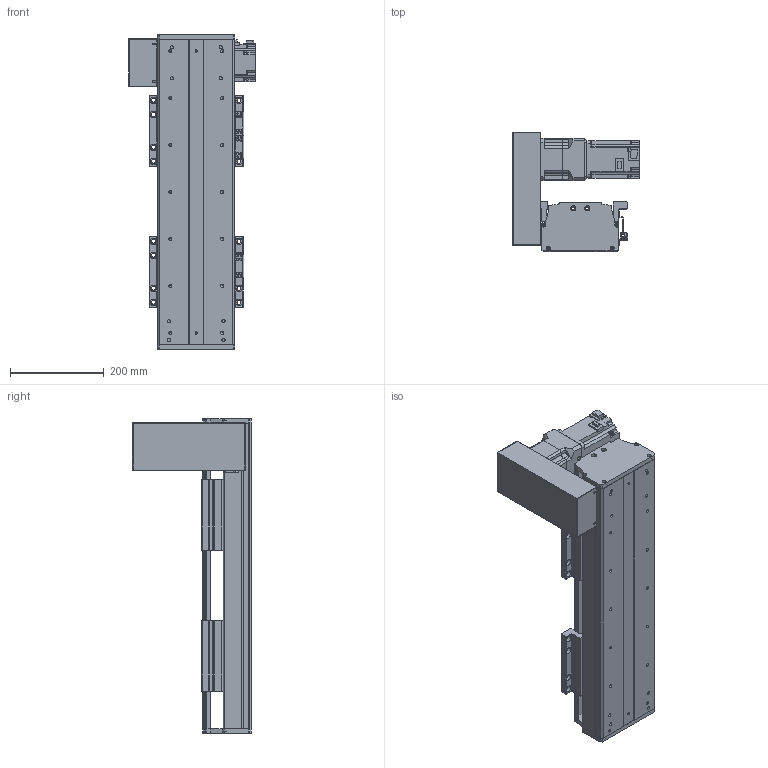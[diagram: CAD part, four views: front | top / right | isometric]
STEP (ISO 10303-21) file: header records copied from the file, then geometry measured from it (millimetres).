
FILE_DESCRIPTION(/* description */ (''),/* implementation_level */ '2;1');
FILE_NAME(/* name */ 'C:\Users\PC\Desktop\3D도면\STEP\DSB165-UL7G-W0300-R.stp',/* time_stamp */ '2018-06-25T15:11:44+09:00',/* author */ ('PC'),/* organization */ (''),/* preprocessor_version */ 'ST-DEVELOPER v16.5',/* originating_system */ 'Autodesk Inventor 2017',/* authorisation */ '');
FILE_SCHEMA (('AUTOMOTIVE_DESIGN { 1 0 10303 214 3 1 1 }'));
Length unit declared in the file: millimetre
Products named in the file (12): DSB165-L; DSR165-BASE_S; hg-kr73_; ab0901-p0401300102; 11-DBS165 BELT COVER; DBS165-COVER; DBS165-COVER_1; DBS165-UP COVER; DSR126-SENSOR DOG; pm-y65_step; SENSOR BRACKET(EE-SX674A); DBS165-TABLE(MSA20S)
Assembly tree (16 placements, depth 2):
  DSB165-L
    DSR165-BASE_S
    hg-kr73_
    ab0901-p0401300102
    11-DBS165 BELT COVER
    DBS165-COVER
    DBS165-COVER_1
    DBS165-UP COVER
    DSR126-SENSOR DOG
    pm-y65_step  x3
    SENSOR BRACKET(EE-SX674A)  x3
    DBS165-TABLE(MSA20S)  x2
Bounding box: 270 x 254 x 670 mm (x, y, z)
Volume: 5669023.6 mm3; surface area: 1292895 mm2
Topology: 17 solids, 22 shells, 1635 faces, 4397 edges, 2906 vertices
Faces by surface type: plane 926, cylinder 603, cone 94, sphere 8, torus 4
Full cylindrical faces by diameter (mm): 2.459 x20, 3.5 x6, 4.134 x34, 4.5 x18, 5 x27, 5.5 x36, 5.9 x4, 6 x8, 6.6 x14, 6.647 x30, 6.8 x1, 7 x4, 7.6 x4, 8 x1, 8.4 x1, 8.5 x24, 8.7 x1, 9.5 x32, 11 x6, 14 x16, 19 x1, 22 x1, 24 x1, 25 x1, 28 x1, 67 x1, 70 x2, 80 x1
Entity records: 34829 total; most frequent: DIRECTION 6140, CARTESIAN_POINT 5983, ORIENTED_EDGE 5470, EDGE_CURVE 2740, AXIS2_PLACEMENT_3D 2240, VERTEX_POINT 1945, EDGE_LOOP 1667, LINE 1660
